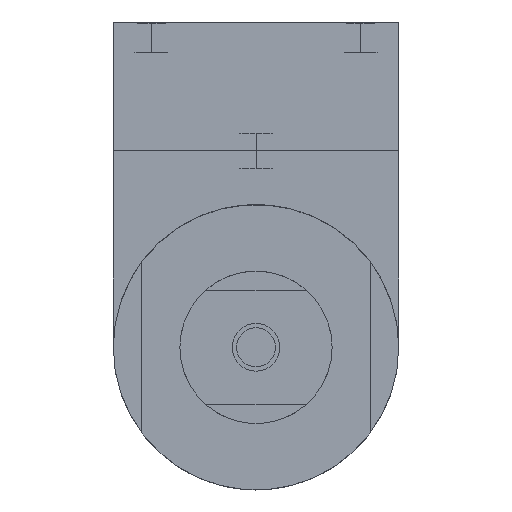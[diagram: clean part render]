
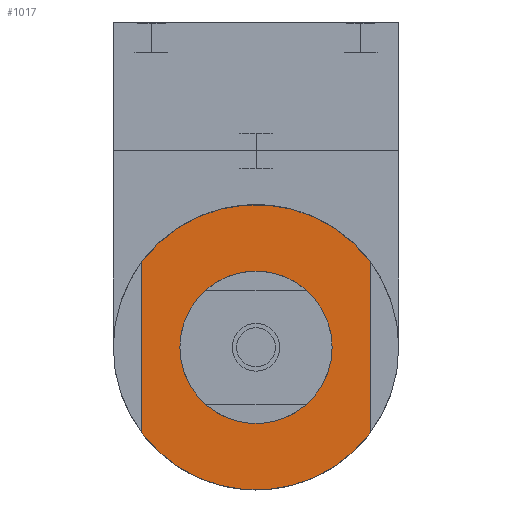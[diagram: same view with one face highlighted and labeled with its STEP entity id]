
A CAD part, front view. The second image highlights one B-rep face of the part: STEP entity #1017.
In plain terms, the highlighted planar face has unit normal (0, -1, 0) as drawn and (0, 0, 1) by its records, which use the part's own axes.
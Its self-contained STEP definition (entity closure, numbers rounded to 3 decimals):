
#1017=ADVANCED_FACE('1:1855',(#2116,#2117),#2118,.T.);
#2116=FACE_OUTER_BOUND('',#3436,.T.);
#2117=FACE_BOUND('',#3437,.T.);
#2118=PLANE('',#3438);
#3436=EDGE_LOOP('',(#5245,#5246,#5247,#5248));
#3437=EDGE_LOOP('',(#5249,#5250));
#3438=AXIS2_PLACEMENT_3D('',#5251,#5252,#5253);
#5245=ORIENTED_EDGE('',*,*,#8189,.T.);
#5246=ORIENTED_EDGE('',*,*,#8190,.F.);
#5247=ORIENTED_EDGE('',*,*,#8191,.F.);
#5248=ORIENTED_EDGE('',*,*,#8192,.F.);
#5249=ORIENTED_EDGE('',*,*,#8157,.F.);
#5250=ORIENTED_EDGE('',*,*,#8047,.F.);
#5251=CARTESIAN_POINT('',(0.0,0.0,17.5));
#5252=DIRECTION('',(0.0,0.0,1.0));
#5253=DIRECTION('',(1.0,0.0,0.0));
#8047=EDGE_CURVE('',#9936,#9938,#9939,.T.);
#8157=EDGE_CURVE('',#9938,#9936,#10126,.T.);
#8189=EDGE_CURVE('',#10181,#10182,#10183,.T.);
#8190=EDGE_CURVE('',#10184,#10182,#10185,.F.);
#8191=EDGE_CURVE('',#10186,#10184,#10187,.T.);
#8192=EDGE_CURVE('',#10181,#10186,#10188,.F.);
#9936=VERTEX_POINT('',#12901);
#9938=VERTEX_POINT('',#12904);
#9939=CIRCLE('',#12905,7.55);
#10126=CIRCLE('',#13180,7.55);
#10181=VERTEX_POINT('',#13334);
#10182=VERTEX_POINT('',#13335);
#10183=LINE('',#13336,#13337);
#10184=VERTEX_POINT('',#13338);
#10185=CIRCLE('',#13339,15.0);
#10186=VERTEX_POINT('',#13340);
#10187=LINE('',#13341,#13342);
#10188=CIRCLE('',#13343,15.0);
#12901=CARTESIAN_POINT('',(-7.539,-0.191,17.5));
#12904=CARTESIAN_POINT('',(7.561,-0.191,17.5));
#12905=AXIS2_PLACEMENT_3D('',#16613,#16614,#16615);
#13180=AXIS2_PLACEMENT_3D('',#16797,#16798,#16799);
#13334=CARTESIAN_POINT('',(-11.989,8.809,17.5));
#13335=CARTESIAN_POINT('',(-11.989,-9.191,17.5));
#13336=CARTESIAN_POINT('',(-11.989,-4.596,17.5));
#13337=VECTOR('',#16827,1.0);
#13338=CARTESIAN_POINT('',(12.011,-9.191,17.5));
#13339=AXIS2_PLACEMENT_3D('',#16828,#16829,#16830);
#13340=CARTESIAN_POINT('',(12.011,8.809,17.5));
#13341=CARTESIAN_POINT('',(12.011,-4.596,17.5));
#13342=VECTOR('',#16831,1.0);
#13343=AXIS2_PLACEMENT_3D('',#16832,#16833,#16834);
#16613=CARTESIAN_POINT('',(0.011,-0.191,17.5));
#16614=DIRECTION('',(0.0,0.0,1.0));
#16615=DIRECTION('',(-1.0,0.0,0.0));
#16797=CARTESIAN_POINT('',(0.011,-0.191,17.5));
#16798=DIRECTION('',(0.0,0.0,1.0));
#16799=DIRECTION('',(-1.0,0.0,0.0));
#16827=DIRECTION('',(0.,-1.0,0.0));
#16828=CARTESIAN_POINT('',(0.011,-0.191,17.5));
#16829=DIRECTION('',(0.0,0.0,1.0));
#16830=DIRECTION('',(1.0,0.0,0.0));
#16831=DIRECTION('',(0.,-1.0,0.0));
#16832=CARTESIAN_POINT('',(0.011,-0.191,17.5));
#16833=DIRECTION('',(0.0,0.0,1.0));
#16834=DIRECTION('',(1.0,0.0,0.0));
